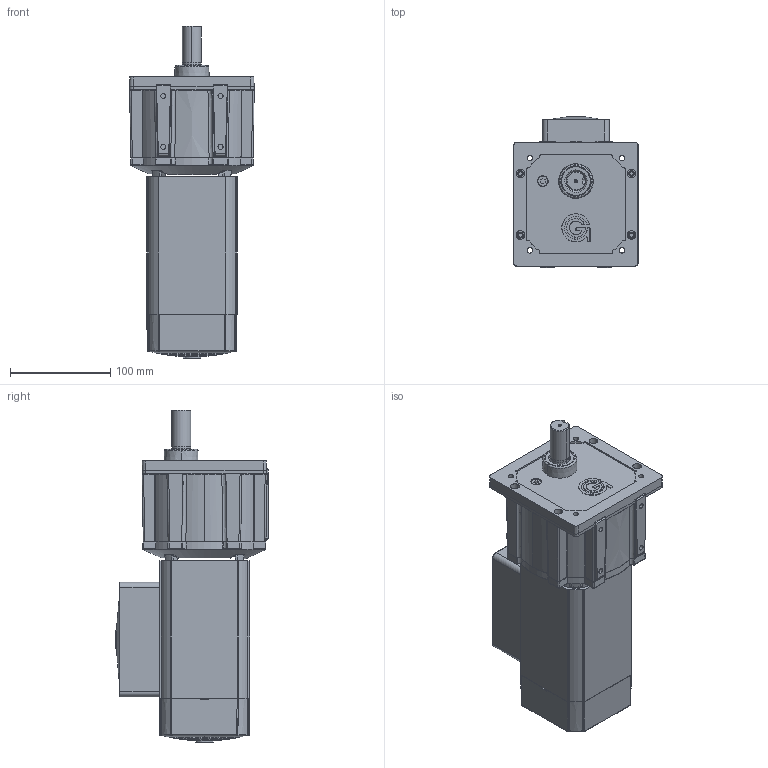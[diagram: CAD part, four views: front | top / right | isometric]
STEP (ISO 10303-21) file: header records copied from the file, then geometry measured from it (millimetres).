
FILE_DESCRIPTION (( 'STEP AP214' ), '1' );
FILE_NAME ('AC8060FC-PS2300.STEP', '2016-04-27T14:13:42', ( '' ), ( '' ), 'SwSTEP 2.0', 'SolidWorks 2015', '' );
FILE_SCHEMA (( 'AUTOMOTIVE_DESIGN' ));
Length unit declared in the file: millimetre
Products named in the file (1): AC8060FC-PS2300
Bounding box: 124.55 x 151.73 x 331.31 mm (x, y, z)
Surface area: 222309.1 mm2 (no closed solid volume)
Topology: 0 solids, 26 shells, 1134 faces, 3746 edges, 2519 vertices
Faces by surface type: plane 602, cylinder 227, bspline 118, cone 89, torus 72, sphere 26
Entity records: 58080 total; most frequent: CARTESIAN_POINT 13534, DIRECTION 7090, ORIENTED_EDGE 6150, EDGE_CURVE 3714, AXIS2_PLACEMENT_3D 2839, VERTEX_POINT 2511, CIRCLE 1822, VECTOR 1412
